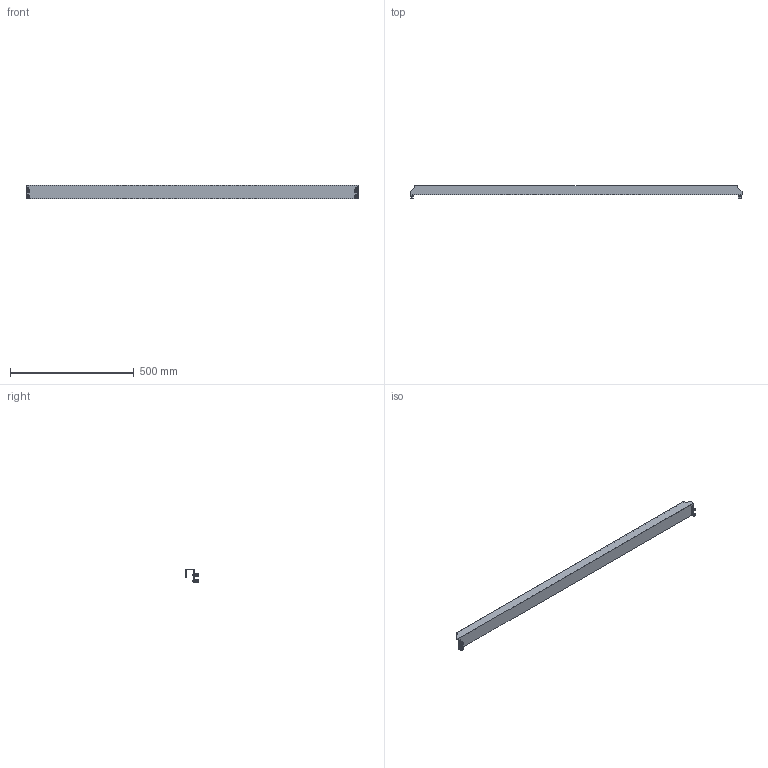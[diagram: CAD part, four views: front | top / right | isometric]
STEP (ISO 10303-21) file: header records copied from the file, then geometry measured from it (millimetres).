
FILE_DESCRIPTION(('Open CASCADE Model'),'2;1');
FILE_NAME('Open CASCADE Shape Model','2025-02-20T14:06:11',('Author'),( 'Open CASCADE'),'Open CASCADE STEP processor 7.8','Open CASCADE 7.8' ,'Unknown');
FILE_SCHEMA(('AUTOMOTIVE_DESIGN { 1 0 10303 214 1 1 1 1 }'));
Length unit declared in the file: millimetre
Products named in the file (4): Compound1; Solid1; Solid2; Solid3
Assembly tree (9 placements, depth 2):
  Compound1
    Solid1
    Solid2  x4
    Solid3  x4
Bounding box: 1340 x 50 x 55.58 mm (x, y, z)
Volume: 450756.5 mm3; surface area: 321261.2 mm2
Topology: 13 solids, 13 shells, 990 faces, 2648 edges, 1676 vertices
Faces by surface type: plane 456, cylinder 266, bspline 168, torus 56, cone 40, sphere 4
Full cylindrical faces by diameter (mm): 6 x4, 6.5 x4, 8.3 x4, 12 x4
Entity records: 17550 total; most frequent: CARTESIAN_POINT 6314, ORIENTED_EDGE 2402, DIRECTION 2188, EDGE_CURVE 1201, VERTEX_POINT 779, AXIS2_PLACEMENT_3D 744, LINE 700, VECTOR 700
